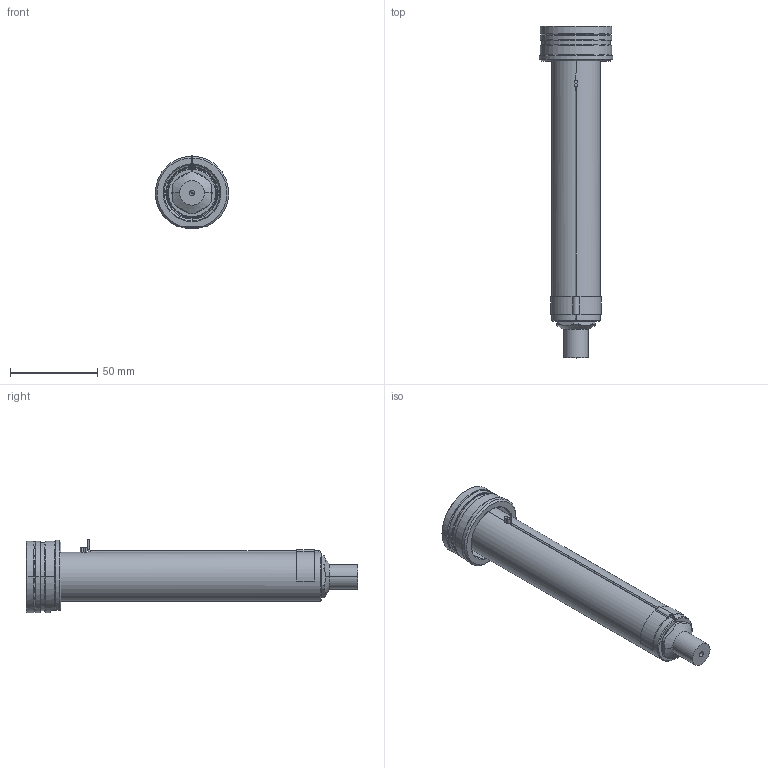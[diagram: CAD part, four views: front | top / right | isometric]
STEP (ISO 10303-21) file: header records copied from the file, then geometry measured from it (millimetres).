
FILE_DESCRIPTION((''),'2;1');
FILE_NAME('EO10_PG-FBE_STD_160_SW','2024-02-19T11:58:58',('sundharh'),(''),'CREO PARAMETRIC BY PTC INC, 2023154','CREO PARAMETRIC BY PTC INC, 2023154','');
FILE_SCHEMA(('CONFIG_CONTROL_DESIGN'));
Length unit declared in the file: millimetre
Products named in the file (1): EO10_PG-FBE_STD_160_SW
Bounding box: 41.85 x 190 x 42.02 mm (x, y, z)
Volume: 106797.8 mm3; surface area: 29360.5 mm2
Topology: 1 solids, 1 shells, 202 faces, 538 edges, 333 vertices
Faces by surface type: cylinder 80, plane 58, cone 41, torus 17, bspline 3, sphere 3
Entity records: 7353 total; most frequent: CARTESIAN_POINT 2215, DIRECTION 1130, ORIENTED_EDGE 1064, EDGE_CURVE 532, AXIS2_PLACEMENT_3D 471, VERTEX_POINT 333, CIRCLE 272, EDGE_LOOP 219
